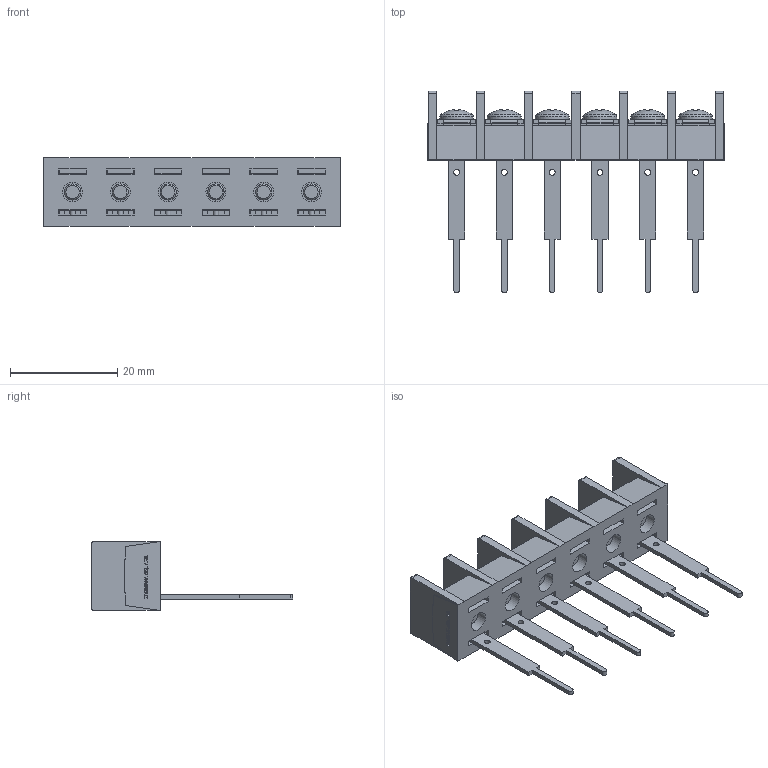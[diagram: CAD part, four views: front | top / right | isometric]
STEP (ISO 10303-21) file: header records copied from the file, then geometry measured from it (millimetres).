
FILE_DESCRIPTION(/* description */ ('Alibre Inc.'),/* implementation_level */ '2;1');
FILE_NAME(/* name */ 'export0',/* time_stamp */ '2015-10-20T20:06:20+09:00',/* author */ (''),/* organization */ (''),/* preprocessor_version */ 'ST-DEVELOPER v14',/* originating_system */ 'Alibre',/* authorisation */ '');
FILE_SCHEMA (('CONFIG_CONTROL_DESIGN'));
Length unit declared in the file: centimetre
Products named in the file (1): ID_1
Bounding box: 55.25 x 37.5 x 12.8 mm (x, y, z)
Volume: 5435.4 mm3; surface area: 7366.4 mm2
Topology: 1 solids, 97 shells, 2106 faces, 5450 edges, 3608 vertices
Faces by surface type: plane 1574, bspline 416, cylinder 68, cone 30, torus 12, sphere 6
Full cylindrical faces by diameter (mm): 1.1 x6, 3 x6, 3.7 x6, 4.6 x6, 6.3 x6
Entity records: 61401 total; most frequent: CARTESIAN_POINT 15023, ORIENTED_EDGE 10768, DIRECTION 6382, EDGE_CURVE 5384, VECTOR 4144, LINE 4144, VERTEX_POINT 3590, EDGE_LOOP 2320
